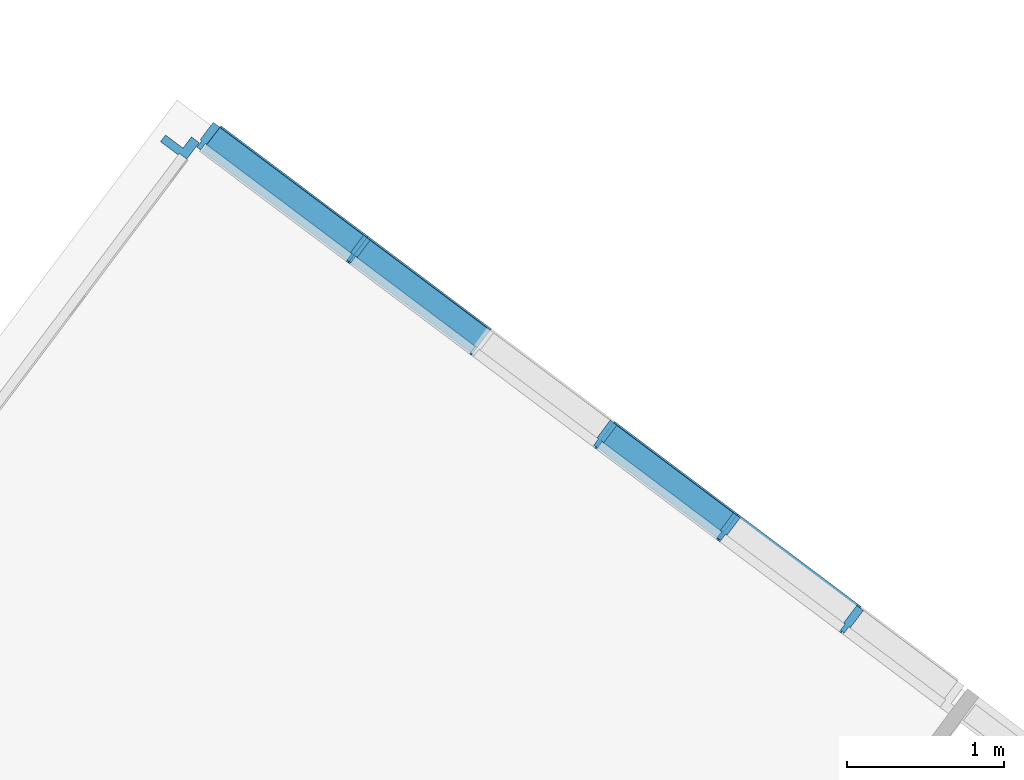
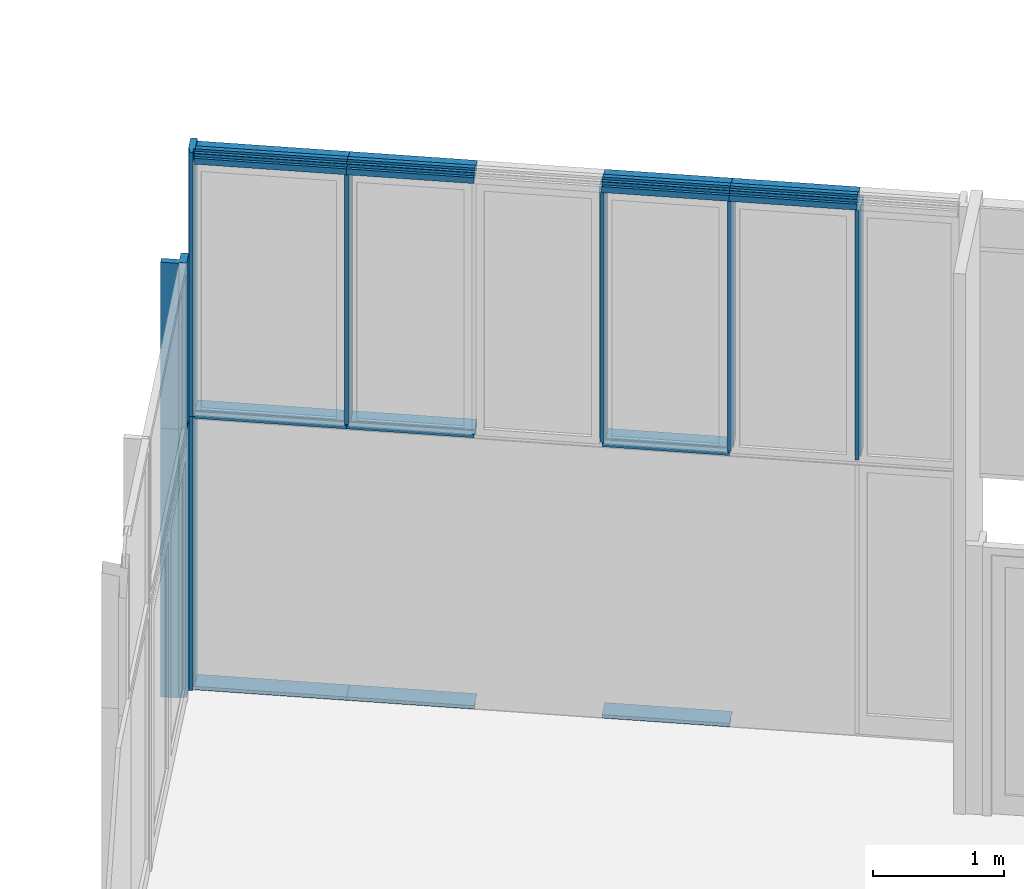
# One storey, part 3 of 15: 18 members, 2 elements without a shape of their own.
"""IFC2X3 building model written with IfcOpenShell, lengths in metres."""

from ifc_helpers import new_model, entity, si_unit, converted_unit, derived_unit, direction, frame, frame_2d, origin, place, context, subcontext, project, spatial, polyline, circle_curve, parameter, trimmed, segment, composite_curve, outline, extrude, source, transform, mapped, material, type_object, type_shapes, element, aggregate, save


model = new_model("IFC2X3")

# Units and contexts
model_context = context("Model", 3, precision=1e-05, world=origin(), true_north=direction((6.123031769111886e-17, 1.0)))
body_context = subcontext(model_context, "Body", "Model", "MODEL_VIEW")
ifc_project = project(units=[si_unit("LENGTHUNIT", "METRE"), si_unit("AREAUNIT", "SQUARE_METRE"), si_unit("VOLUMEUNIT", "CUBIC_METRE"), converted_unit("PLANEANGLEUNIT", "DEGREE", entity("IfcRatioMeasure", 0.017453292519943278), si_unit("PLANEANGLEUNIT", "RADIAN"), dimensions=[0, 0, 0, 0, 0, 0, 0]), si_unit("MASSUNIT", "GRAM", prefix="KILO"), derived_unit("MASSDENSITYUNIT", [(si_unit("MASSUNIT", "GRAM", prefix="KILO"), 1), (si_unit("LENGTHUNIT", "METRE"), -3)]), derived_unit("IONCONCENTRATIONUNIT", [(si_unit("MASSUNIT", "GRAM", prefix="KILO"), 1), (si_unit("LENGTHUNIT", "METRE"), -3)]), derived_unit("MOMENTOFINERTIAUNIT", [(si_unit("LENGTHUNIT", "METRE"), 4)]), si_unit("TIMEUNIT", "SECOND"), si_unit("FREQUENCYUNIT", "HERTZ"), si_unit("THERMODYNAMICTEMPERATUREUNIT", "DEGREE_CELSIUS"), derived_unit("THERMALTRANSMITTANCEUNIT", [(si_unit("MASSUNIT", "GRAM", prefix="KILO"), 1), (si_unit("THERMODYNAMICTEMPERATUREUNIT", "KELVIN"), -1), (si_unit("TIMEUNIT", "SECOND"), -3)]), derived_unit("THERMALCONDUCTANCEUNIT", [(si_unit("MASSUNIT", "GRAM", prefix="KILO"), 1), (si_unit("THERMODYNAMICTEMPERATUREUNIT", "KELVIN"), -1), (si_unit("TIMEUNIT", "SECOND"), -3), (si_unit("LENGTHUNIT", "METRE"), 1)]), derived_unit("VOLUMETRICFLOWRATEUNIT", [(si_unit("LENGTHUNIT", "METRE"), 3), (si_unit("TIMEUNIT", "SECOND"), -1)]), derived_unit("MASSFLOWRATEUNIT", [(si_unit("MASSUNIT", "GRAM", prefix="KILO"), 1), (si_unit("TIMEUNIT", "SECOND"), -1)]), derived_unit("ROTATIONALFREQUENCYUNIT", [(si_unit("TIMEUNIT", "SECOND"), -1)]), si_unit("ELECTRICCURRENTUNIT", "AMPERE"), si_unit("ELECTRICVOLTAGEUNIT", "VOLT"), si_unit("POWERUNIT", "WATT"), si_unit("FORCEUNIT", "NEWTON", prefix="KILO"), si_unit("ILLUMINANCEUNIT", "LUX"), si_unit("LUMINOUSFLUXUNIT", "LUMEN"), si_unit("LUMINOUSINTENSITYUNIT", "CANDELA"), derived_unit("USERDEFINED", [(si_unit("MASSUNIT", "GRAM", prefix="KILO"), -1), (si_unit("LENGTHUNIT", "METRE"), -2), (si_unit("TIMEUNIT", "SECOND"), 3), (si_unit("LUMINOUSFLUXUNIT", "LUMEN"), 1)]), derived_unit("USERDEFINED", [(si_unit("MASSUNIT", "GRAM", prefix="KILO"), 1), (si_unit("TIMEUNIT", "SECOND"), -3), (si_unit("LENGTHUNIT", "METRE"), 3), (si_unit("ELECTRICCURRENTUNIT", "AMPERE"), -2)]), derived_unit("SOUNDPOWERUNIT", [(si_unit("MASSUNIT", "GRAM", prefix="KILO"), 1), (si_unit("TIMEUNIT", "SECOND"), -3), (si_unit("LENGTHUNIT", "METRE"), 2)]), derived_unit("SOUNDPRESSUREUNIT", [(si_unit("MASSUNIT", "GRAM", prefix="KILO"), 1), (si_unit("LENGTHUNIT", "METRE"), -1), (si_unit("TIMEUNIT", "SECOND"), -2)]), derived_unit("LINEARVELOCITYUNIT", [(si_unit("LENGTHUNIT", "METRE"), 1), (si_unit("TIMEUNIT", "SECOND"), -1)]), si_unit("PRESSUREUNIT", "PASCAL"), derived_unit("USERDEFINED", [(si_unit("MASSUNIT", "GRAM", prefix="KILO"), 1), (si_unit("LENGTHUNIT", "METRE"), -2), (si_unit("TIMEUNIT", "SECOND"), -2)]), derived_unit("LINEARFORCEUNIT", [(si_unit("MASSUNIT", "GRAM", prefix="KILO"), 1), (si_unit("TIMEUNIT", "SECOND"), -2)]), derived_unit("PLANARFORCEUNIT", [(si_unit("MASSUNIT", "GRAM", prefix="KILO"), 1), (si_unit("LENGTHUNIT", "METRE"), -1), (si_unit("TIMEUNIT", "SECOND"), -2)]), derived_unit("SPECIFICHEATCAPACITYUNIT", [(si_unit("THERMODYNAMICTEMPERATUREUNIT", "KELVIN"), -1), (si_unit("LENGTHUNIT", "METRE"), 2), (si_unit("TIMEUNIT", "SECOND"), -2)]), derived_unit("HEATINGVALUEUNIT", [(si_unit("LENGTHUNIT", "METRE"), 2), (si_unit("TIMEUNIT", "SECOND"), -2)]), derived_unit("VAPORPERMEABILITYUNIT", [(si_unit("LENGTHUNIT", "METRE"), -1), (si_unit("TIMEUNIT", "SECOND"), 1)]), derived_unit("DYNAMICVISCOSITYUNIT", [(si_unit("MASSUNIT", "GRAM", prefix="KILO"), 1), (si_unit("TIMEUNIT", "SECOND"), -1), (si_unit("LENGTHUNIT", "METRE"), -1)]), derived_unit("THERMALEXPANSIONCOEFFICIENTUNIT", [(si_unit("THERMODYNAMICTEMPERATUREUNIT", "KELVIN"), -1)]), derived_unit("MODULUSOFELASTICITYUNIT", [(si_unit("MASSUNIT", "GRAM", prefix="KILO"), 1), (si_unit("LENGTHUNIT", "METRE"), -1), (si_unit("TIMEUNIT", "SECOND"), -2)]), derived_unit("ISOTHERMALMOISTURECAPACITYUNIT", [(si_unit("LENGTHUNIT", "METRE"), 3), (si_unit("MASSUNIT", "GRAM", prefix="KILO"), -1)]), derived_unit("MOISTUREDIFFUSIVITYUNIT", [(si_unit("TIMEUNIT", "SECOND"), -1), (si_unit("LENGTHUNIT", "METRE"), 2)])], contexts=[model_context])

# Site, building, storey
site_placement = place(None, frame((0.0, 0.0, 235.0), z_axis=(0.0, 0.0, 1.0), x_axis=(-0.7996477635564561, 0.6004693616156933, 0.0)))
site = spatial("IfcSite", under=ifc_project, at=site_placement, Name="Default", CompositionType="ELEMENT")
building_placement = place(site_placement, origin())
building = spatial("IfcBuilding", under=site, at=building_placement, CompositionType="ELEMENT")
storey_placement = place(building_placement, frame((0.0, 0.0, -5.4499999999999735)))
storey = spatial("IfcBuildingStorey", under=building, at=storey_placement, Name="PS1- Gimnàs", CompositionType="ELEMENT", Elevation=-5.4499999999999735)

# Curtain wall, members
curtain_wall_type_1 = type_object("IfcCurtainWallType", Name="Muro cortina:MC- EXT- MCv1- Portes", PredefinedType="NOTDEFINED")
curtain_wall_1_placement = place(storey_placement, frame((0.0, 0.0, 5.4499999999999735)))
curtain_wall_1 = element("IfcCurtainWall", 1, at=curtain_wall_1_placement, inside=storey, type_object=curtain_wall_type_1, Name="Muro cortina:MC- EXT- MCv1- Portes", ObjectType="Muro cortina:MC- EXT- MCv1- Portes")
ifc_material = material(Name="_Alumini- T1- Perfil")
member_type_1 = type_object("IfcMemberType", Name="Montante rectangular:MC- Alu- 210x50 cm- Gimnas- Esquerra", PredefinedType="MULLION", material=ifc_material)
shared_shape_1 = source(origin(), body_context, "Body", "SweptSolid", [
    extrude(outline(polyline([(-0.019499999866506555, -0.051562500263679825), (0.11949999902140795, -0.051562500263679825), (0.11949999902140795, 0.0009375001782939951), (-0.019500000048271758, 0.0009375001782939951), (-0.019500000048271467, 0.090937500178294), (-0.0804999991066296, 0.09093750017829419), (-0.08049999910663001, -0.04031250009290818), (-0.019499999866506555, -0.04031250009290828), (-0.019499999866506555, -0.051562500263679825)])), frame((-0.090937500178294, -0.020499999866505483, -2.4999999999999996), z_axis=(0.0, 0.0, 1.0), x_axis=(0.0, -1.0, 0.0)), (0.0, 0.0, 1.0), 2.4999999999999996),
])
type_shapes(member_type_1, [shared_shape_1])
member_1_placement = place(curtain_wall_1_placement, frame((15.730147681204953, -39.347441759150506, -5.449999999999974), z_axis=(0.0, 0.0, -1.0), x_axis=(0.0, -1.0, 0.0)))
member_1 = element("IfcMember", 2, at=member_1_placement, type_object=member_type_1, material=ifc_material, Name="Montante rectangular:MC- Alu- 210x50 cm- Gimnas- Esquerra", ObjectType="Montante rectangular:MC- Alu- 210x50 cm- Gimnas- Esquerra", context=body_context, shape_type="MappedRepresentation", body=[
    mapped(shared_shape_1, transform((0.0, 0.0, 0.0), scale=1.0)),
])
member_type_2 = type_object("IfcMemberType", Name="Montante rectangular:MC- Alu- 210x50 cm- Gimnas- Esquerra", PredefinedType="MULLION", material=ifc_material)
shared_shape_2 = source(origin(), body_context, "Body", "SweptSolid", [
    extrude(outline(polyline([(-0.019499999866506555, -0.051562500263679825), (0.11949999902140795, -0.051562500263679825), (0.11949999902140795, 0.0009375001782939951), (-0.019500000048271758, 0.0009375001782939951), (-0.019500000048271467, 0.090937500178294), (-0.0804999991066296, 0.09093750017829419), (-0.08049999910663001, -0.04031250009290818), (-0.019499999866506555, -0.04031250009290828), (-0.019499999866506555, -0.051562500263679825)])), frame((-0.090937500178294, -0.020499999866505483, -1.5455557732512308), z_axis=(0.0, 0.0, 1.0), x_axis=(0.0, -1.0, 0.0)), (0.0, 0.0, 1.0), 1.545555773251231),
])
type_shapes(member_type_2, [shared_shape_2])
member_2_placement = place(curtain_wall_1_placement, frame((15.730147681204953, -39.347441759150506, -2.949999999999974), z_axis=(0.0, 0.0, -1.0), x_axis=(0.0, -1.0, 0.0)))
member_2 = element("IfcMember", 3, at=member_2_placement, type_object=member_type_2, material=ifc_material, Name="Montante rectangular:MC- Alu- 210x50 cm- Gimnas- Esquerra", ObjectType="Montante rectangular:MC- Alu- 210x50 cm- Gimnas- Esquerra", context=body_context, shape_type="MappedRepresentation", body=[
    mapped(shared_shape_2, transform((0.0, 0.0, 0.0), scale=1.0)),
])
aggregate(curtain_wall_1, [member_1, member_2])

curtain_wall_type_2 = type_object("IfcCurtainWallType", Name="Muro cortina:MC- EXT- MCv1- frontal", PredefinedType="NOTDEFINED")
curtain_wall_2_placement = place(storey_placement, frame((0.0, 0.0, 5.4499999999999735)))
curtain_wall_2 = element("IfcCurtainWall", 4, at=curtain_wall_2_placement, inside=storey, type_object=curtain_wall_type_2, Name="Muro cortina:MC- EXT- MCv1- frontal", ObjectType="Muro cortina:MC- EXT- MCv1- frontal")
member_type_3 = type_object("IfcMemberType", Name="Montante rectangular:MC- Alu- 140x52,5 cm- Gimnas- Inferior", PredefinedType="MULLION", material=ifc_material)
shared_shape_3 = source(origin(), body_context, "Body", "SweptSolid", [
    extrude(outline(composite_curve([segment(polyline([(-0.12919138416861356, -0.017967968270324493), (-0.0471913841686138, -0.017967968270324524)]), True, "CONTINUOUS"), segment(polyline([(-0.0471913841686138, -0.01796796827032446), (0.04598801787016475, -0.009575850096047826)]), True, "CONTINUOUS"), segment(trimmed(circle_curve(frame_2d((0.04580861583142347, -0.00758391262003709), x_axis=(0.08970101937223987, -0.995968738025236)), 0.0019999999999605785), [parameter(0.0)], [parameter(84.85359280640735)], True, "PARAMETER"), True, "CONTINUOUS"), segment(polyline([(0.04780861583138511, -0.00758391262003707), (0.04780861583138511, 0.0074125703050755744)]), True, "CONTINUOUS"), segment(trimmed(circle_curve(frame_2d((0.04580861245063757, 0.00741257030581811), x_axis=(1.0, 0.0)), 0.0020000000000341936), [parameter(0.0)], [parameter(90.00000002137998)], True, "PARAMETER"), True, "CONTINUOUS"), segment(polyline([(0.04580861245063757, 0.009412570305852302), (0.037808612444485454, 0.00941257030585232)]), True, "CONTINUOUS"), segment(polyline([(0.037808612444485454, 0.009412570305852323), (0.037808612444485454, 0.007412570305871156)]), True, "CONTINUOUS"), segment(polyline([(0.037808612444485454, 0.007412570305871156), (0.045308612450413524, 0.00741257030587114)]), True, "CONTINUOUS"), segment(trimmed(circle_curve(frame_2d((0.045308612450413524, 0.006912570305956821), x_axis=(0.0, 1.0)), 0.0004999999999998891), [parameter(269.999999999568)], [parameter(0.0)], True, "PARAMETER"), False, "CONTINUOUS"), segment(polyline([(0.04580861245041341, 0.006912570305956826), (0.045808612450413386, -0.007583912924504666)]), True, "CONTINUOUS"), segment(polyline([(0.045808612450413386, -0.007583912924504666), (-0.04719138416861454, -0.015959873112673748)]), True, "CONTINUOUS"), segment(polyline([(-0.04719138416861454, -0.015959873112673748), (-0.047191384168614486, 0.014332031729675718)]), True, "CONTINUOUS"), segment(polyline([(-0.047191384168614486, 0.014332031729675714), (-0.1291913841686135, 0.014332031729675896)]), True, "CONTINUOUS"), segment(polyline([(-0.1291913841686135, 0.014332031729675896), (-0.12919138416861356, -0.017967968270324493)]), True, "CONTINUOUS")], self_intersect=False)), frame((-0.014332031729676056, -0.09219138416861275, -1.1684999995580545), z_axis=(0.0, 0.0, 1.0), x_axis=(0.0, -1.0, 0.0)), (0.0, 0.0, 1.0), 1.1684999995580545),
])
type_shapes(member_type_3, [shared_shape_3])
member_3_placement = place(curtain_wall_2_placement, frame((15.623647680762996, -39.3651917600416, -5.4499999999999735), z_axis=(1.0, 0.0, 0.0), x_axis=(0.0, 0.0, -1.0)))
member_3 = element("IfcMember", 5, at=member_3_placement, type_object=member_type_3, material=ifc_material, Name="Montante rectangular:MC- Alu- 140x52,5 cm- Gimnas- Inferior", ObjectType="Montante rectangular:MC- Alu- 140x52,5 cm- Gimnas- Inferior", context=body_context, shape_type="MappedRepresentation", body=[
    mapped(shared_shape_3, transform((0.0, 0.0, 0.0), scale=1.0)),
])
member_type_4 = type_object("IfcMemberType", Name="Montante rectangular:MC- Alu- 210x50 cm- Gimnas- Centre", PredefinedType="MULLION", material=ifc_material)
shared_shape_4 = source(origin(), body_context, "Body", "SweptSolid", [
    extrude(outline(polyline([(-0.02200000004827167, -0.026250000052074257), (0.11699999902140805, -0.026250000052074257), (0.11699999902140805, 0.026250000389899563), (-0.021999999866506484, 0.026250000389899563), (-0.021999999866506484, 0.01500000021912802), (-0.0729999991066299, 0.01500000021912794), (-0.07299999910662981, -0.015000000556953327), (-0.022000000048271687, -0.015000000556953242), (-0.02200000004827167, -0.026250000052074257)])), frame((-0.026250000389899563, -0.022999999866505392, -2.4599999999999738), z_axis=(0.0, 0.0, 1.0), x_axis=(0.0, -1.0, 0.0)), (0.0, 0.0, 1.0), 2.4599999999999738),
])
type_shapes(member_type_4, [shared_shape_4])
member_4_placement = place(curtain_wall_2_placement, frame((15.676147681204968, -39.3651917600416, -0.4400000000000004)))
member_4 = element("IfcMember", 6, at=member_4_placement, type_object=member_type_4, material=ifc_material, Name="Montante rectangular:MC- Alu- 210x50 cm- Gimnas- Centre", ObjectType="Montante rectangular:MC- Alu- 210x50 cm- Gimnas- Centre", context=body_context, shape_type="MappedRepresentation", body=[
    mapped(shared_shape_4, transform((0.0, 0.0, 0.0), scale=1.0)),
])
member_type_5 = type_object("IfcMemberType", Name="Montante rectangular:MC- Alu- 210x50 cm- Gimnas- Centre", PredefinedType="MULLION", material=ifc_material)
shared_shape_5 = source(origin(), body_context, "Body", "SweptSolid", [
    extrude(outline(polyline([(-0.02200000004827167, -0.026250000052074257), (0.11699999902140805, -0.026250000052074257), (0.11699999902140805, 0.026250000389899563), (-0.021999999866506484, 0.026250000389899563), (-0.021999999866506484, 0.01500000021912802), (-0.0729999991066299, 0.01500000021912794), (-0.07299999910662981, -0.015000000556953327), (-0.022000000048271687, -0.015000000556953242), (-0.02200000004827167, -0.026250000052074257)])), frame((-0.026250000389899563, -0.022999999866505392, -2.5500000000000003), z_axis=(0.0, 0.0, 1.0), x_axis=(0.0, -1.0, 0.0)), (0.0, 0.0, 1.0), 2.55),
])
type_shapes(member_type_5, [shared_shape_5])
member_5_placement = place(curtain_wall_2_placement, frame((15.676147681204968, -39.3651917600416, -2.8999999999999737)))
member_5 = element("IfcMember", 7, at=member_5_placement, type_object=member_type_5, material=ifc_material, Name="Montante rectangular:MC- Alu- 210x50 cm- Gimnas- Centre", ObjectType="Montante rectangular:MC- Alu- 210x50 cm- Gimnas- Centre", context=body_context, shape_type="MappedRepresentation", body=[
    mapped(shared_shape_5, transform((0.0, 0.0, 0.0), scale=1.0)),
])
member_type_6 = type_object("IfcMemberType", Name="Montante rectangular:MC- Alu- 210x50 cm- Gimnas- Superior", PredefinedType="MULLION", material=ifc_material)
shared_shape_6 = source(origin(), body_context, "Body", "SweptSolid", [
    extrude(outline(polyline([(-0.09008951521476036, -0.0692243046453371), (0.10991048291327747, -0.0692243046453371), (0.10991048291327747, -0.016724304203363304), (-0.027089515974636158, -0.016724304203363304), (-0.027089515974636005, 0.030275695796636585), (0.006151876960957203, 0.030275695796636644), (0.006151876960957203, 0.01801675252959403), (0.11816142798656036, -0.0017335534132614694), (0.11816142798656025, -0.029506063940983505), (0.12116142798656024, -0.029506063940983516), (0.12116142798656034, 0.0007837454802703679), (0.009151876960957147, 0.020534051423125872), (0.009151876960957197, 0.033275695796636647), (-0.030089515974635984, 0.03327569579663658), (-0.030089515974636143, -0.016724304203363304), (-0.0620895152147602, -0.016724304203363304), (-0.06208951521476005, 0.03327569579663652), (-0.09008951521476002, 0.03327569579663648), (-0.09008951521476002, 0.030275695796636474), (-0.06508951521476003, 0.03027569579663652), (-0.06508951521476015, -0.013724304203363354), (-0.09008951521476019, -0.01372430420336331), (-0.09008951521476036, -0.0692243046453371)])), frame((-0.03327569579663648, -0.030089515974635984, -0.9800000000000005), z_axis=(0.0, 0.0, 1.0), x_axis=(0.0, -1.0, 0.0)), (0.0, 0.0, 1.0), 0.9800000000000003),
])
type_shapes(member_type_6, [shared_shape_6])
member_6_placement = place(curtain_wall_2_placement, frame((10.53514768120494, -39.3651917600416, -0.4400000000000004), z_axis=(-1.0, 0.0, 0.0), x_axis=(0.0, 0.0, 1.0)))
member_6 = element("IfcMember", 8, at=member_6_placement, type_object=member_type_6, material=ifc_material, Name="Montante rectangular:MC- Alu- 210x50 cm- Gimnas- Superior", ObjectType="Montante rectangular:MC- Alu- 210x50 cm- Gimnas- Superior", context=body_context, shape_type="MappedRepresentation", body=[
    mapped(shared_shape_6, transform((0.0, 0.0, 0.0), scale=1.0)),
])
member_7_placement = place(curtain_wall_2_placement, frame((11.51514768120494, -39.3651917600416, -0.4400000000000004), z_axis=(-1.0, 0.0, 0.0), x_axis=(0.0, 0.0, 1.0)))
member_7 = element("IfcMember", 9, at=member_7_placement, type_object=member_type_6, material=ifc_material, Name="Montante rectangular:MC- Alu- 210x50 cm- Gimnas- Superior", ObjectType="Montante rectangular:MC- Alu- 210x50 cm- Gimnas- Superior", context=body_context, shape_type="MappedRepresentation", body=[
    mapped(shared_shape_6, transform((0.0, 0.0, 0.0), scale=1.0)),
])
member_8_placement = place(curtain_wall_2_placement, frame((13.475147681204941, -39.3651917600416, -0.4400000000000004), z_axis=(-1.0, 0.0, 0.0), x_axis=(0.0, 0.0, 1.0)))
member_8 = element("IfcMember", 10, at=member_8_placement, type_object=member_type_6, material=ifc_material, Name="Montante rectangular:MC- Alu- 210x50 cm- Gimnas- Superior", ObjectType="Montante rectangular:MC- Alu- 210x50 cm- Gimnas- Superior", context=body_context, shape_type="MappedRepresentation", body=[
    mapped(shared_shape_6, transform((0.0, 0.0, 0.0), scale=1.0)),
])
member_type_7 = type_object("IfcMemberType", Name="Montante rectangular:MC- Alu- 140x52,5 cm- Fa patis- Centre", PredefinedType="MULLION", material=ifc_material)
shared_shape_7 = source(origin(), body_context, "Body", "SweptSolid", [
    extrude(outline(polyline([(-0.021999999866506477, -0.026250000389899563), (0.11699999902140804, -0.026250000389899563), (0.11699999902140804, 0.026250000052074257), (-0.02200000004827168, 0.026250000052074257), (-0.02200000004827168, 0.015000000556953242), (-0.07299999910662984, 0.015000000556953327), (-0.07299999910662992, -0.01500000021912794), (-0.021999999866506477, -0.01500000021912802), (-0.021999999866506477, -0.026250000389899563)])), frame((0.0, -0.022999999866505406, -2.331249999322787), z_axis=(0.0, 0.0, 1.0), x_axis=(0.0, -1.0, 0.0)), (0.0, 0.0, 1.0), 2.331249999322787),
])
type_shapes(member_type_7, [shared_shape_7])
member_9_placement = place(curtain_wall_2_placement, frame((10.53514768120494, -39.3651917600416, -2.8737499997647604), z_axis=(0.0, 0.0, -1.0), x_axis=(-1.0, 0.0, 0.0)))
member_9 = element("IfcMember", 11, at=member_9_placement, type_object=member_type_7, material=ifc_material, Name="Montante rectangular:MC- Alu- 140x52,5 cm- Fa patis- Centre", ObjectType="Montante rectangular:MC- Alu- 140x52,5 cm- Fa patis- Centre", context=body_context, shape_type="MappedRepresentation", body=[
    mapped(shared_shape_7, transform((0.0, 0.0, 0.0), scale=1.0)),
])
member_10_placement = place(curtain_wall_2_placement, frame((11.51514768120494, -39.3651917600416, -2.8737499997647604), z_axis=(0.0, 0.0, -1.0), x_axis=(-1.0, 0.0, 0.0)))
member_10 = element("IfcMember", 12, at=member_10_placement, type_object=member_type_7, material=ifc_material, Name="Montante rectangular:MC- Alu- 140x52,5 cm- Fa patis- Centre", ObjectType="Montante rectangular:MC- Alu- 140x52,5 cm- Fa patis- Centre", context=body_context, shape_type="MappedRepresentation", body=[
    mapped(shared_shape_7, transform((0.0, 0.0, 0.0), scale=1.0)),
])
member_11_placement = place(curtain_wall_2_placement, frame((12.49514768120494, -39.3651917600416, -2.8737499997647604), z_axis=(0.0, 0.0, -1.0), x_axis=(-1.0, 0.0, 0.0)))
member_11 = element("IfcMember", 13, at=member_11_placement, type_object=member_type_7, material=ifc_material, Name="Montante rectangular:MC- Alu- 140x52,5 cm- Fa patis- Centre", ObjectType="Montante rectangular:MC- Alu- 140x52,5 cm- Fa patis- Centre", context=body_context, shape_type="MappedRepresentation", body=[
    mapped(shared_shape_7, transform((0.0, 0.0, 0.0), scale=1.0)),
])
member_12_placement = place(curtain_wall_2_placement, frame((14.455147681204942, -39.3651917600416, -2.8737499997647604), z_axis=(0.0, 0.0, -1.0), x_axis=(-1.0, 0.0, 0.0)))
member_12 = element("IfcMember", 14, at=member_12_placement, type_object=member_type_7, material=ifc_material, Name="Montante rectangular:MC- Alu- 140x52,5 cm- Fa patis- Centre", ObjectType="Montante rectangular:MC- Alu- 140x52,5 cm- Fa patis- Centre", context=body_context, shape_type="MappedRepresentation", body=[
    mapped(shared_shape_7, transform((0.0, 0.0, 0.0), scale=1.0)),
])
member_type_8 = type_object("IfcMemberType", Name="Montante rectangular:MC- Alu- 140x52,5 cm- Gimnas- Inferior", PredefinedType="MULLION", material=ifc_material)
shared_shape_8 = source(origin(), body_context, "Body", "SweptSolid", [
    extrude(outline(composite_curve([segment(polyline([(-0.12919138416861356, -0.017967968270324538), (-0.0471913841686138, -0.01796796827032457)]), True, "CONTINUOUS"), segment(polyline([(-0.0471913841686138, -0.017967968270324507), (0.04598801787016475, -0.00957585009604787)]), True, "CONTINUOUS"), segment(trimmed(circle_curve(frame_2d((0.04580861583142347, -0.007583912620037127), x_axis=(0.08970101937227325, -0.995968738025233)), 0.0019999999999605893), [parameter(0.0)], [parameter(84.8535928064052)], True, "PARAMETER"), True, "CONTINUOUS"), segment(polyline([(0.04780861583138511, -0.007583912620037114), (0.04780861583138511, 0.007412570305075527)]), True, "CONTINUOUS"), segment(trimmed(circle_curve(frame_2d((0.04580861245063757, 0.007412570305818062), x_axis=(1.0, 0.0)), 0.0020000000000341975), [parameter(0.0)], [parameter(90.00000002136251)], True, "PARAMETER"), True, "CONTINUOUS"), segment(polyline([(0.04580861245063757, 0.00941257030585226), (0.037808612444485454, 0.009412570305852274)]), True, "CONTINUOUS"), segment(polyline([(0.037808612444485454, 0.009412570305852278), (0.037808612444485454, 0.0074125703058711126)]), True, "CONTINUOUS"), segment(polyline([(0.037808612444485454, 0.0074125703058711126), (0.045308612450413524, 0.007412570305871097)]), True, "CONTINUOUS"), segment(trimmed(circle_curve(frame_2d((0.045308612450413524, 0.006912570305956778), x_axis=(0.0, 1.0)), 0.0004999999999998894), [parameter(269.99999999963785)], [parameter(0.0)], True, "PARAMETER"), False, "CONTINUOUS"), segment(polyline([(0.04580861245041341, 0.006912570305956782), (0.045808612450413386, -0.00758391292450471)]), True, "CONTINUOUS"), segment(polyline([(0.045808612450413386, -0.00758391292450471), (-0.04719138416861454, -0.01595987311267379)]), True, "CONTINUOUS"), segment(polyline([(-0.04719138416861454, -0.015959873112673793), (-0.047191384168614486, 0.014332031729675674)]), True, "CONTINUOUS"), segment(polyline([(-0.047191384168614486, 0.01433203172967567), (-0.1291913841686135, 0.014332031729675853)]), True, "CONTINUOUS"), segment(polyline([(-0.1291913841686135, 0.014332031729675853), (-0.12919138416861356, -0.017967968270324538)]), True, "CONTINUOUS")], self_intersect=False)), frame((-0.014332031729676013, -0.09219138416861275, -0.9800000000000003), z_axis=(0.0, 0.0, 1.0), x_axis=(0.0, -1.0, 0.0)), (0.0, 0.0, 1.0), 0.9800000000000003),
])
type_shapes(member_type_8, [shared_shape_8])
member_13_placement = place(curtain_wall_2_placement, frame((12.49514768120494, -39.3651917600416, -5.4499999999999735), z_axis=(1.0, 0.0, 0.0), x_axis=(0.0, 0.0, -1.0)))
member_13 = element("IfcMember", 15, at=member_13_placement, type_object=member_type_8, material=ifc_material, Name="Montante rectangular:MC- Alu- 140x52,5 cm- Gimnas- Inferior", ObjectType="Montante rectangular:MC- Alu- 140x52,5 cm- Gimnas- Inferior", context=body_context, shape_type="MappedRepresentation", body=[
    mapped(shared_shape_8, transform((0.0, 0.0, 0.0), scale=1.0)),
])
member_14_placement = place(curtain_wall_2_placement, frame((14.455147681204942, -39.3651917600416, -5.4499999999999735), z_axis=(1.0, 0.0, 0.0), x_axis=(0.0, 0.0, -1.0)))
member_14 = element("IfcMember", 16, at=member_14_placement, type_object=member_type_8, material=ifc_material, Name="Montante rectangular:MC- Alu- 140x52,5 cm- Gimnas- Inferior", ObjectType="Montante rectangular:MC- Alu- 140x52,5 cm- Gimnas- Inferior", context=body_context, shape_type="MappedRepresentation", body=[
    mapped(shared_shape_8, transform((0.0, 0.0, 0.0), scale=1.0)),
])
member_type_9 = type_object("IfcMemberType", Name="Montante rectangular:MC- Alu- 210x50 cm- Gimnas- Superior", PredefinedType="MULLION", material=ifc_material)
shared_shape_9 = source(origin(), body_context, "Body", "SweptSolid", [
    extrude(outline(polyline([(-0.09008951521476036, -0.0692243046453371), (0.10991048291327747, -0.0692243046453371), (0.10991048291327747, -0.016724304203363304), (-0.027089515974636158, -0.016724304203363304), (-0.027089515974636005, 0.030275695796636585), (0.006151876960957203, 0.030275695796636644), (0.006151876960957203, 0.01801675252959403), (0.11816142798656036, -0.0017335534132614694), (0.11816142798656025, -0.029506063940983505), (0.12116142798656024, -0.029506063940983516), (0.12116142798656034, 0.0007837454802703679), (0.009151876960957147, 0.020534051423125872), (0.009151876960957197, 0.033275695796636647), (-0.030089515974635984, 0.03327569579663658), (-0.030089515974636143, -0.016724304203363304), (-0.0620895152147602, -0.016724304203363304), (-0.06208951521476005, 0.03327569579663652), (-0.09008951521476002, 0.03327569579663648), (-0.09008951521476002, 0.030275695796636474), (-0.06508951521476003, 0.03027569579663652), (-0.06508951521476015, -0.013724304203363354), (-0.09008951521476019, -0.01372430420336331), (-0.09008951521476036, -0.0692243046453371)])), frame((-0.03327569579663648, -0.030089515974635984, -1.1684999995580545), z_axis=(0.0, 0.0, 1.0), x_axis=(0.0, -1.0, 0.0)), (0.0, 0.0, 1.0), 1.168499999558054),
])
type_shapes(member_type_9, [shared_shape_9])
member_15_placement = place(curtain_wall_2_placement, frame((14.455147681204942, -39.3651917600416, -0.4400000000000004), z_axis=(-1.0, 0.0, 0.0), x_axis=(0.0, 0.0, 1.0)))
member_15 = element("IfcMember", 17, at=member_15_placement, type_object=member_type_9, material=ifc_material, Name="Montante rectangular:MC- Alu- 210x50 cm- Gimnas- Superior", ObjectType="Montante rectangular:MC- Alu- 210x50 cm- Gimnas- Superior", context=body_context, shape_type="MappedRepresentation", body=[
    mapped(shared_shape_9, transform((0.0, 0.0, 0.0), scale=1.0)),
])
member_type_10 = type_object("IfcMemberType", Name="Montante rectangular:MC- Alu- 140x52,5 cm- Fa patis- Centre", PredefinedType="MULLION", material=ifc_material)
shared_shape_10 = source(origin(), body_context, "Body", "SweptSolid", [
    extrude(outline(polyline([(-0.021999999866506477, -0.026250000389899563), (0.11699999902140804, -0.026250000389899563), (0.11699999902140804, 0.026250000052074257), (-0.02200000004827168, 0.026250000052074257), (-0.02200000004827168, 0.015000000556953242), (-0.07299999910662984, 0.015000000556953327), (-0.07299999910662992, -0.01500000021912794), (-0.021999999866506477, -0.01500000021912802), (-0.021999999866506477, -0.026250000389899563)])), frame((0.0, -0.022999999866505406, -1.1684999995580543), z_axis=(0.0, 0.0, 1.0), x_axis=(0.0, -1.0, 0.0)), (0.0, 0.0, 1.0), 1.168499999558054),
])
type_shapes(member_type_10, [shared_shape_10])
member_16_placement = place(curtain_wall_2_placement, frame((14.455147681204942, -39.3651917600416, -2.8999999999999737), z_axis=(-1.0, 0.0, 0.0), x_axis=(0.0, 0.0, 1.0)))
member_16 = element("IfcMember", 18, at=member_16_placement, type_object=member_type_10, material=ifc_material, Name="Montante rectangular:MC- Alu- 140x52,5 cm- Fa patis- Centre", ObjectType="Montante rectangular:MC- Alu- 140x52,5 cm- Fa patis- Centre", context=body_context, shape_type="MappedRepresentation", body=[
    mapped(shared_shape_10, transform((0.0, 0.0, 0.0), scale=1.0)),
])
member_type_11 = type_object("IfcMemberType", Name="Montante rectangular:MC- Alu- 140x52,5 cm- Fa patis- Centre", PredefinedType="MULLION", material=ifc_material)
shared_shape_11 = source(origin(), body_context, "Body", "SweptSolid", [
    extrude(outline(polyline([(-0.021999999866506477, -0.026250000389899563), (0.11699999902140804, -0.026250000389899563), (0.11699999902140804, 0.026250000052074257), (-0.02200000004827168, 0.026250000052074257), (-0.02200000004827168, 0.015000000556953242), (-0.07299999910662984, 0.015000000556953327), (-0.07299999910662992, -0.01500000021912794), (-0.021999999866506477, -0.01500000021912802), (-0.021999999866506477, -0.026250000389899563)])), frame((0.0, -0.022999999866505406, -0.9800000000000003), z_axis=(0.0, 0.0, 1.0), x_axis=(0.0, -1.0, 0.0)), (0.0, 0.0, 1.0), 0.9800000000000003),
])
type_shapes(member_type_11, [shared_shape_11])
member_17_placement = place(curtain_wall_2_placement, frame((11.51514768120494, -39.3651917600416, -2.8999999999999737), z_axis=(-1.0, 0.0, 0.0), x_axis=(0.0, 0.0, 1.0)))
member_17 = element("IfcMember", 19, at=member_17_placement, type_object=member_type_11, material=ifc_material, Name="Montante rectangular:MC- Alu- 140x52,5 cm- Fa patis- Centre", ObjectType="Montante rectangular:MC- Alu- 140x52,5 cm- Fa patis- Centre", context=body_context, shape_type="MappedRepresentation", body=[
    mapped(shared_shape_11, transform((0.0, 0.0, 0.0), scale=1.0)),
])
member_18_placement = place(curtain_wall_2_placement, frame((13.475147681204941, -39.3651917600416, -2.8999999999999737), z_axis=(-1.0, 0.0, 0.0), x_axis=(0.0, 0.0, 1.0)))
member_18 = element("IfcMember", 20, at=member_18_placement, type_object=member_type_11, material=ifc_material, Name="Montante rectangular:MC- Alu- 140x52,5 cm- Fa patis- Centre", ObjectType="Montante rectangular:MC- Alu- 140x52,5 cm- Fa patis- Centre", context=body_context, shape_type="MappedRepresentation", body=[
    mapped(shared_shape_11, transform((0.0, 0.0, 0.0), scale=1.0)),
])
aggregate(curtain_wall_2, [member_3, member_4, member_5, member_6, member_9, member_7, member_10, member_13, member_11, member_8, member_15, member_14, member_12, member_16, member_17, member_18])

save(model, "model.ifc")
